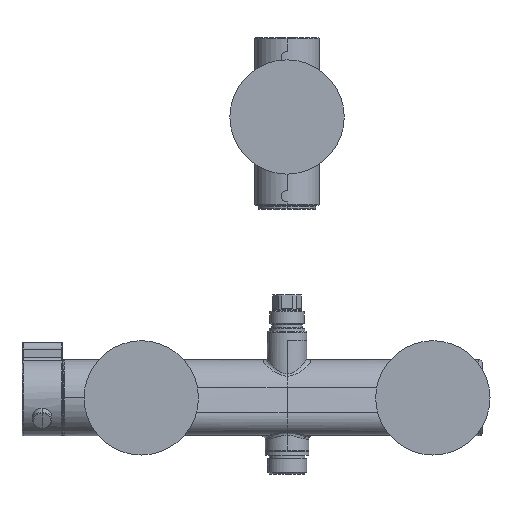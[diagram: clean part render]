
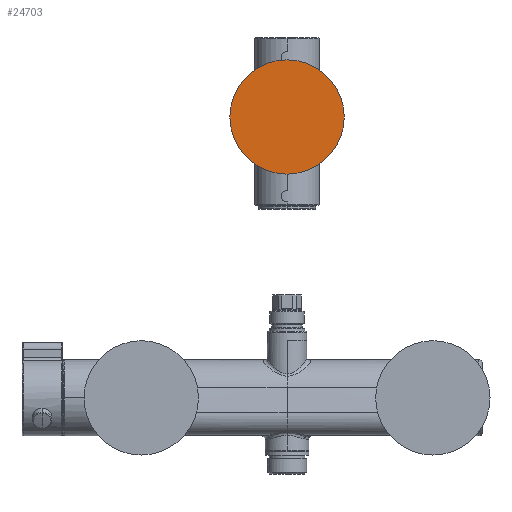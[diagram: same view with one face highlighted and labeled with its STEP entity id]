
A CAD part, front view. The second image highlights one B-rep face of the part: STEP entity #24703.
In plain terms, the highlighted planar face has unit normal (0, -1, 0).
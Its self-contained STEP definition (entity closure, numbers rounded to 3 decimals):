
#24248=CARTESIAN_POINT('',(0.,-7.712,147.408));
#24249=DIRECTION('',(0.,-1.,0.));
#24250=DIRECTION('',(0.,0.,1.));
#24251=AXIS2_PLACEMENT_3D('',#24248,#24249,#24250);
#24271=CARTESIAN_POINT('',(0.,-7.712,147.408));
#24272=DIRECTION('',(0.,1.,0.));
#24273=DIRECTION('',(0.,0.,1.));
#24274=AXIS2_PLACEMENT_3D('',#24271,#24272,#24273);
#24276=CARTESIAN_POINT('',(0.,-7.712,177.408));
#24277=CARTESIAN_POINT('',(0.,-7.712,117.408));
#24278=VERTEX_POINT('',#24276);
#24279=VERTEX_POINT('',#24277);
#24694=CARTESIAN_POINT('',(0.,-7.712,147.408));
#24695=DIRECTION('',(0.,-1.,0.));
#24696=DIRECTION('',(0.,0.,-1.));
#24697=AXIS2_PLACEMENT_3D('',#24694,#24695,#24696);
#24698=PLANE('',#24697);
#24699=ORIENTED_EDGE('',*,*,#24673,.F.);
#24700=ORIENTED_EDGE('',*,*,#24689,.T.);
#24701=EDGE_LOOP('',(#24699,#24700));
#24702=FACE_OUTER_BOUND('',#24701,.F.);
#24703=ADVANCED_FACE('',(#24702),#24698,.T.);
#24252=CIRCLE('',#24251,30.);
#24275=CIRCLE('',#24274,30.);
#24673=EDGE_CURVE('',#24278,#24279,#24252,.T.);
#24689=EDGE_CURVE('',#24278,#24279,#24275,.T.);
